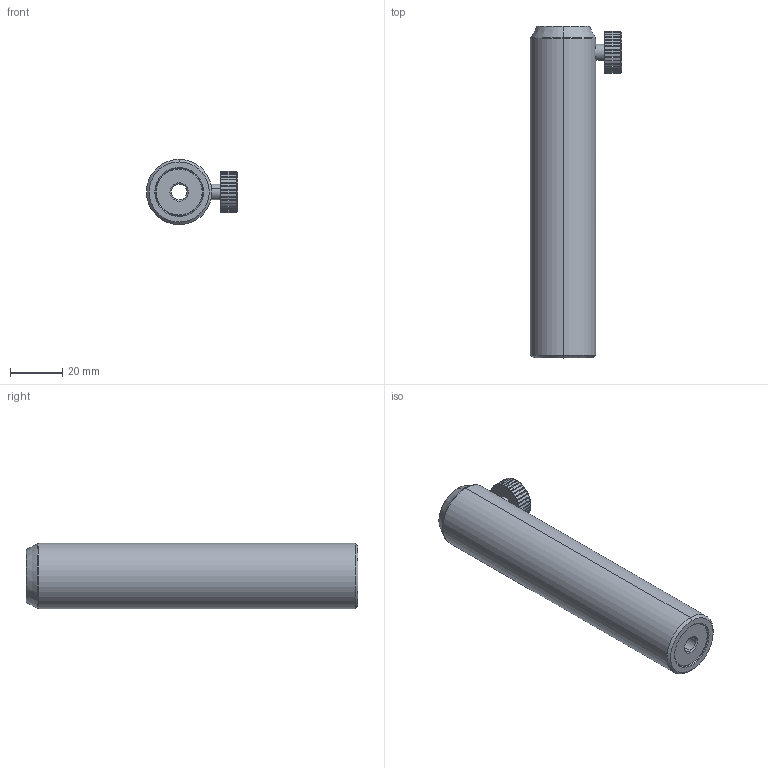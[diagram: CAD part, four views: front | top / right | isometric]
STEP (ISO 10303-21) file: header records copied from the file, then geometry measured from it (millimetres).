
FILE_DESCRIPTION (( 'STEP AP203' ), '1' );
FILE_NAME ('PH-5.STEP', '2021-07-19T06:06:55', ( '¦K¬P' ), ( '' ), 'SwSTEP 2.0', 'SolidWorks 2019', '' );
FILE_SCHEMA (( 'CONFIG_CONTROL_DESIGN' ));
Length unit declared in the file: millimetre
Products named in the file (1): PH-5
Bounding box: 34.84 x 127 x 25 mm (x, y, z)
Volume: 46569.3 mm3; surface area: 18282.1 mm2
Topology: 2 solids, 2 shells, 210 faces, 551 edges, 358 vertices
Faces by surface type: plane 108, cylinder 78, cone 20, torus 4
Entity records: 6812 total; most frequent: CARTESIAN_POINT 1559, ORIENTED_EDGE 1102, DIRECTION 1057, EDGE_CURVE 551, AXIS2_PLACEMENT_3D 380, VERTEX_POINT 358, LINE 297, VECTOR 297
